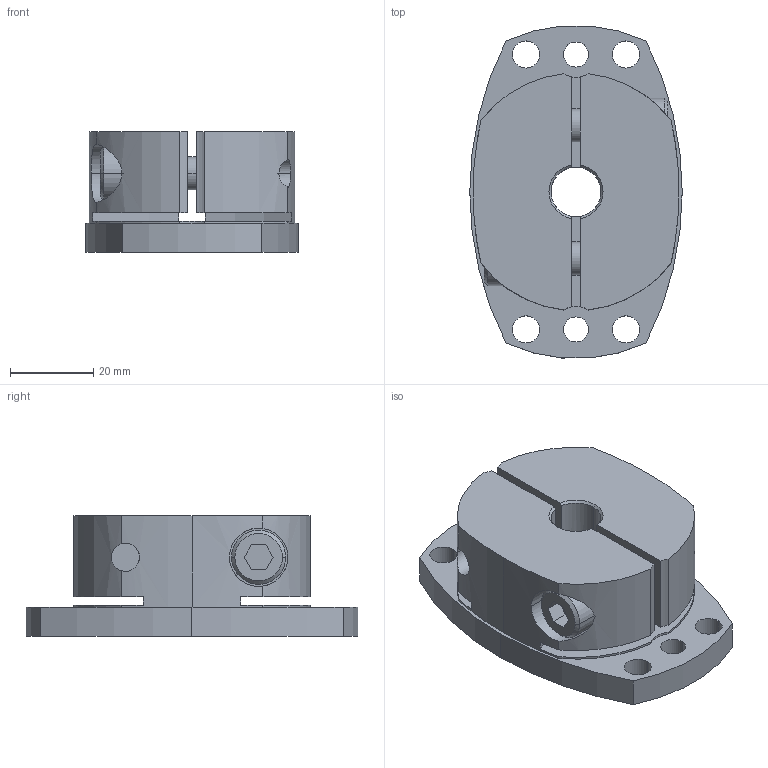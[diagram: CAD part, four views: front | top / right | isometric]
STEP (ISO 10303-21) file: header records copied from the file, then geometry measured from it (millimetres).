
FILE_DESCRIPTION((''),'2;1');
FILE_NAME('SHDB-80B-12.stp','2026-01-28T08:21:47',(''),(''),'AutoCAD STEP 2000i','AutoCAD 2000i',', , ');
FILE_SCHEMA(('CONFIG_CONTROL_DESIGN'));
Length unit declared in the file: millimetre
Products named in the file (2): SHDB-80B-12; 忣兜1
Assembly tree (1 placements, depth 2):
  SHDB-80B-12
    忣兜1
Bounding box: 51 x 79.7 x 29 mm (x, y, z)
Volume: 65561.4 mm3; surface area: 20089.7 mm2
Topology: 1 solids, 1 shells, 102 faces, 280 edges, 184 vertices
Faces by surface type: cylinder 58, plane 34, cone 10
Entity records: 3707 total; most frequent: CARTESIAN_POINT 880, DIRECTION 602, ORIENTED_EDGE 560, EDGE_CURVE 280, AXIS2_PLACEMENT_3D 238, VERTEX_POINT 184, CIRCLE 134, VECTOR 126
